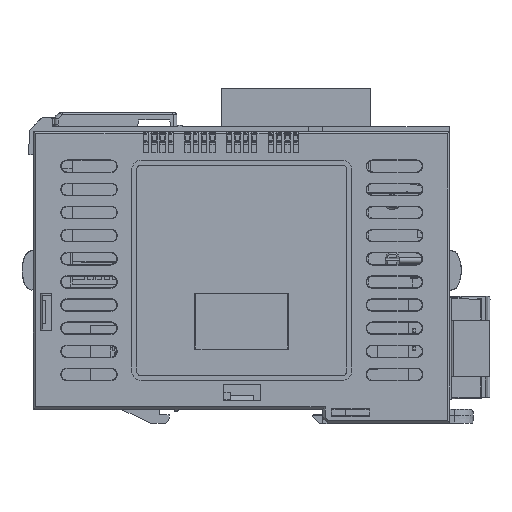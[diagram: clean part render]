
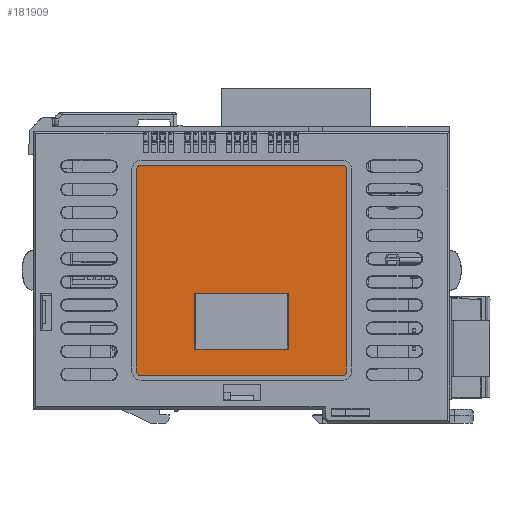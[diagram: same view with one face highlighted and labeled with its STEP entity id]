
A CAD part, left-side view. The second image highlights one B-rep face of the part: STEP entity #181909.
In plain terms, the highlighted planar face has unit normal (-1, 0, 0).
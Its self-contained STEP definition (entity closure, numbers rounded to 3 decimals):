
#709 = VECTOR ( 'NONE', #125408, 1000. ) ;
#1835 = VERTEX_POINT ( 'NONE', #260016 ) ;
#5776 = ORIENTED_EDGE ( 'NONE', *, *, #227357, .F. ) ;
#11552 = VECTOR ( 'NONE', #88199, 1000. ) ;
#11572 = PLANE ( 'NONE',  #198453 ) ;
#11658 = CARTESIAN_POINT ( 'NONE',  ( -79.743, 21.578, 16.1 ) ) ;
#12734 = CARTESIAN_POINT ( 'NONE',  ( -79.743, -10.272, 54.95 ) ) ;
#13075 = DIRECTION ( 'NONE',  ( 0., -1., 0. ) ) ;
#13267 = CIRCLE ( 'NONE', #18000, 1. ) ;
#13472 = EDGE_CURVE ( 'NONE', #256299, #107055, #102442, .T. ) ;
#14394 = DIRECTION ( 'NONE',  ( 0., 1., 0. ) ) ;
#18000 = AXIS2_PLACEMENT_3D ( 'NONE', #192157, #44271, #22736 ) ;
#22736 = DIRECTION ( 'NONE',  ( 0., 0., -1. ) ) ;
#25553 = CARTESIAN_POINT ( 'NONE',  ( -79.743, 1.378, 28.3 ) ) ;
#26009 = LINE ( 'NONE', #246976, #128149 ) ;
#31673 = DIRECTION ( 'NONE',  ( 1., 0., 0. ) ) ;
#44135 = EDGE_CURVE ( 'NONE', #172518, #67877, #62464, .T. ) ;
#44271 = DIRECTION ( 'NONE',  ( -1., 0., 0. ) ) ;
#46800 = EDGE_CURVE ( 'NONE', #114272, #275515, #56635, .T. ) ;
#56635 = CIRCLE ( 'NONE', #217073, 1. ) ;
#57206 = DIRECTION ( 'NONE',  ( 0., 0., -1. ) ) ;
#59610 = DIRECTION ( 'NONE',  ( 0., 0., -1. ) ) ;
#59891 = VECTOR ( 'NONE', #13075, 1000. ) ;
#62464 = LINE ( 'NONE', #283442, #74037 ) ;
#64262 = EDGE_CURVE ( 'NONE', #77316, #274588, #26009, .T. ) ;
#65814 = LINE ( 'NONE', #25553, #208901 ) ;
#66102 = CARTESIAN_POINT ( 'NONE',  ( -79.743, 34.228, 11.45 ) ) ;
#67877 = VERTEX_POINT ( 'NONE', #66102 ) ;
#72994 = ORIENTED_EDGE ( 'NONE', *, *, #120211, .F. ) ;
#74037 = VECTOR ( 'NONE', #59610, 1000. ) ;
#76014 = CARTESIAN_POINT ( 'NONE',  ( -79.743, 34.228, 10.45 ) ) ;
#77316 = VERTEX_POINT ( 'NONE', #112207 ) ;
#78712 = DIRECTION ( 'NONE',  ( -1., 0., 0. ) ) ;
#88199 = DIRECTION ( 'NONE',  ( 0., 0., 1. ) ) ;
#89053 = ORIENTED_EDGE ( 'NONE', *, *, #64262, .F. ) ;
#89184 = CARTESIAN_POINT ( 'NONE',  ( -79.743, -11.272, 11.45 ) ) ;
#102442 = LINE ( 'NONE', #106710, #709 ) ;
#106710 = CARTESIAN_POINT ( 'NONE',  ( -79.743, 34.228, 55.95 ) ) ;
#107055 = VERTEX_POINT ( 'NONE', #114342 ) ;
#108512 = CARTESIAN_POINT ( 'NONE',  ( -79.743, -10.272, 11.45 ) ) ;
#110941 = ORIENTED_EDGE ( 'NONE', *, *, #44135, .T. ) ;
#111117 = LINE ( 'NONE', #283410, #11552 ) ;
#111410 = CIRCLE ( 'NONE', #120438, 1. ) ;
#112207 = CARTESIAN_POINT ( 'NONE',  ( -79.743, 21.578, 28.3 ) ) ;
#114272 = VERTEX_POINT ( 'NONE', #192442 ) ;
#114342 = CARTESIAN_POINT ( 'NONE',  ( -79.743, 33.228, 55.95 ) ) ;
#114819 = LINE ( 'NONE', #76014, #221236 ) ;
#119898 = EDGE_CURVE ( 'NONE', #1835, #114272, #114819, .T. ) ;
#120211 = EDGE_CURVE ( 'NONE', #161977, #77316, #65814, .T. ) ;
#120438 = AXIS2_PLACEMENT_3D ( 'NONE', #167876, #210982, #147739 ) ;
#125408 = DIRECTION ( 'NONE',  ( 0., 1., 0. ) ) ;
#128149 = VECTOR ( 'NONE', #264269, 1000. ) ;
#147739 = DIRECTION ( 'NONE',  ( 0., 0., -1. ) ) ;
#157023 = EDGE_CURVE ( 'NONE', #107055, #172518, #13267, .T. ) ;
#159644 = ORIENTED_EDGE ( 'NONE', *, *, #46800, .T. ) ;
#161977 = VERTEX_POINT ( 'NONE', #257069 ) ;
#163555 = DIRECTION ( 'NONE',  ( 0., -1., 0. ) ) ;
#165098 = FACE_OUTER_BOUND ( 'NONE', #217382, .T. ) ;
#167876 = CARTESIAN_POINT ( 'NONE',  ( -79.743, 33.228, 11.45 ) ) ;
#170503 = CARTESIAN_POINT ( 'NONE',  ( -79.743, -10.272, 55.95 ) ) ;
#172518 = VERTEX_POINT ( 'NONE', #230395 ) ;
#174531 = DIRECTION ( 'NONE',  ( 0., 0., -1. ) ) ;
#181909 = ADVANCED_FACE ( 'NONE', ( #165098, #190879 ), #11572, .F. ) ;
#190587 = LINE ( 'NONE', #255154, #273115 ) ;
#190879 = FACE_BOUND ( 'NONE', #226213, .T. ) ;
#191418 = CARTESIAN_POINT ( 'NONE',  ( -79.743, -11.272, 54.95 ) ) ;
#192157 = CARTESIAN_POINT ( 'NONE',  ( -79.743, 33.228, 54.95 ) ) ;
#192442 = CARTESIAN_POINT ( 'NONE',  ( -79.743, -10.272, 10.45 ) ) ;
#193930 = VERTEX_POINT ( 'NONE', #191418 ) ;
#195144 = VERTEX_POINT ( 'NONE', #251315 ) ;
#196080 = DIRECTION ( 'NONE',  ( -1., 0., 0. ) ) ;
#198453 = AXIS2_PLACEMENT_3D ( 'NONE', #272727, #31673, #14394 ) ;
#207625 = ORIENTED_EDGE ( 'NONE', *, *, #119898, .T. ) ;
#208756 = EDGE_CURVE ( 'NONE', #275515, #193930, #111117, .T. ) ;
#208901 = VECTOR ( 'NONE', #242303, 1000. ) ;
#209309 = DIRECTION ( 'NONE',  ( 0., 0., 1. ) ) ;
#209806 = EDGE_CURVE ( 'NONE', #195144, #161977, #190587, .T. ) ;
#210802 = ORIENTED_EDGE ( 'NONE', *, *, #13472, .T. ) ;
#210982 = DIRECTION ( 'NONE',  ( -1., 0., 0. ) ) ;
#214850 = EDGE_CURVE ( 'NONE', #67877, #1835, #111410, .T. ) ;
#217073 = AXIS2_PLACEMENT_3D ( 'NONE', #108512, #196080, #174531 ) ;
#217173 = ORIENTED_EDGE ( 'NONE', *, *, #209806, .F. ) ;
#217382 = EDGE_LOOP ( 'NONE', ( #207625, #159644, #242980, #262926, #210802, #249148, #110941, #268703 ) ) ;
#217665 = CARTESIAN_POINT ( 'NONE',  ( -79.743, 21.578, 16.1 ) ) ;
#221236 = VECTOR ( 'NONE', #163555, 1000. ) ;
#226213 = EDGE_LOOP ( 'NONE', ( #89053, #72994, #217173, #5776 ) ) ;
#227357 = EDGE_CURVE ( 'NONE', #274588, #195144, #229800, .T. ) ;
#229800 = LINE ( 'NONE', #11658, #59891 ) ;
#230395 = CARTESIAN_POINT ( 'NONE',  ( -79.743, 34.228, 54.95 ) ) ;
#234588 = EDGE_CURVE ( 'NONE', #193930, #256299, #244561, .T. ) ;
#235346 = AXIS2_PLACEMENT_3D ( 'NONE', #12734, #78712, #57206 ) ;
#242303 = DIRECTION ( 'NONE',  ( 0., 1., 0. ) ) ;
#242980 = ORIENTED_EDGE ( 'NONE', *, *, #208756, .T. ) ;
#244561 = CIRCLE ( 'NONE', #235346, 1. ) ;
#246976 = CARTESIAN_POINT ( 'NONE',  ( -79.743, 21.578, 28.3 ) ) ;
#249148 = ORIENTED_EDGE ( 'NONE', *, *, #157023, .T. ) ;
#251315 = CARTESIAN_POINT ( 'NONE',  ( -79.743, 1.378, 16.1 ) ) ;
#255154 = CARTESIAN_POINT ( 'NONE',  ( -79.743, 1.378, 16.1 ) ) ;
#256299 = VERTEX_POINT ( 'NONE', #170503 ) ;
#257069 = CARTESIAN_POINT ( 'NONE',  ( -79.743, 1.378, 28.3 ) ) ;
#260016 = CARTESIAN_POINT ( 'NONE',  ( -79.743, 33.228, 10.45 ) ) ;
#262926 = ORIENTED_EDGE ( 'NONE', *, *, #234588, .T. ) ;
#264269 = DIRECTION ( 'NONE',  ( 0., 0., -1. ) ) ;
#268703 = ORIENTED_EDGE ( 'NONE', *, *, #214850, .T. ) ;
#272727 = CARTESIAN_POINT ( 'NONE',  ( -79.743, 11.478, 33.2 ) ) ;
#273115 = VECTOR ( 'NONE', #209309, 1000. ) ;
#274588 = VERTEX_POINT ( 'NONE', #217665 ) ;
#275515 = VERTEX_POINT ( 'NONE', #89184 ) ;
#283410 = CARTESIAN_POINT ( 'NONE',  ( -79.743, -11.272, 10.45 ) ) ;
#283442 = CARTESIAN_POINT ( 'NONE',  ( -79.743, 34.228, 10.45 ) ) ;
